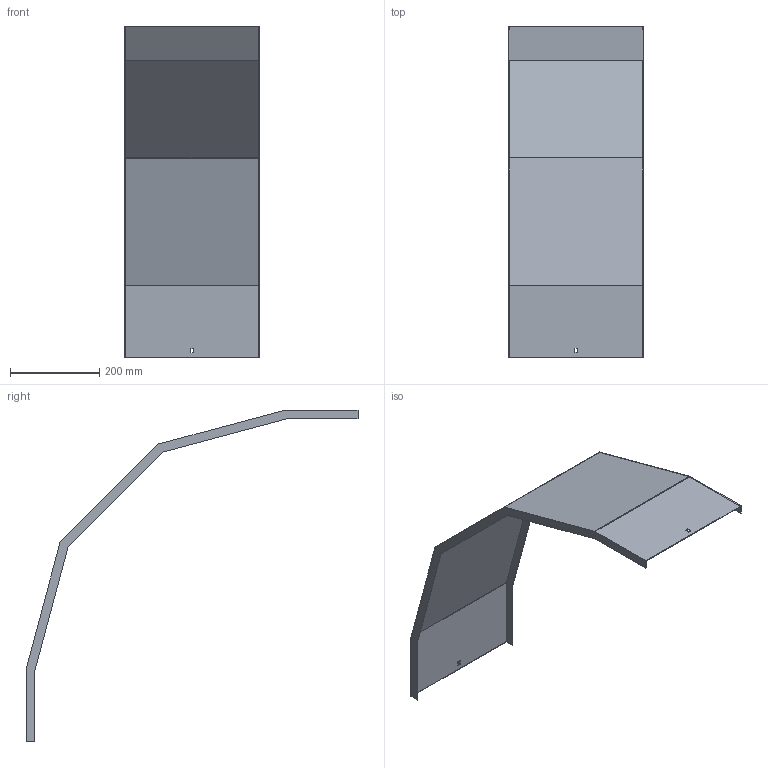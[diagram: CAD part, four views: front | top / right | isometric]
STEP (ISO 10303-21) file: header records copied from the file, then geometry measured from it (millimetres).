
FILE_DESCRIPTION (( 'STEP AP214' ), '1' );
FILE_NAME ('33N5C300.step', '2025-02-21T10:42:44', ( '' ), ( '' ), 'SwSTEP 2.0', 'SolidWorks 2023', '' );
FILE_SCHEMA (( 'AUTOMOTIVE_DESIGN' ));
Length unit declared in the file: millimetre
Products named in the file (1): 33N5C300
Bounding box: 303 x 745.38 x 745.38 mm (x, y, z)
Volume: 625099.7 mm3; surface area: 838173.9 mm2
Topology: 1 solids, 1 shells, 34 faces, 96 edges, 64 vertices
Faces by surface type: plane 34
Entity records: 1111 total; most frequent: CARTESIAN_POINT 195, ORIENTED_EDGE 192, DIRECTION 166, LINE 96, EDGE_CURVE 96, VECTOR 96, VERTEX_POINT 64, EDGE_LOOP 38
